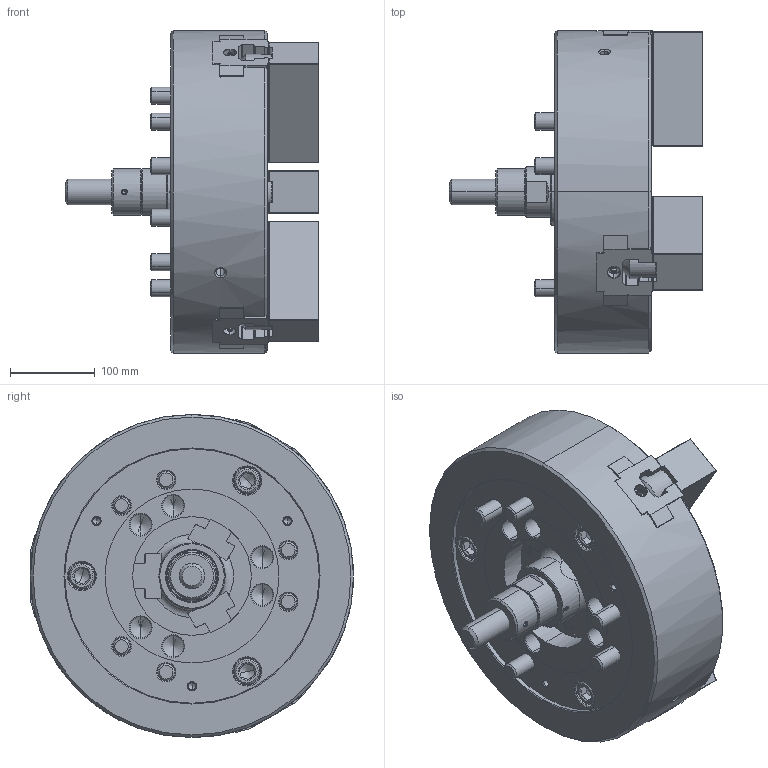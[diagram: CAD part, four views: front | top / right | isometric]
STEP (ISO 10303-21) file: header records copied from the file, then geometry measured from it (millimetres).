
FILE_DESCRIPTION (( 'STEP AP214' ), '1' );
FILE_NAME ('DT1_N-15_OUTSIDE_VIEW_HUL.STEP', '2026-03-19T02:18:55', ( '' ), ( '' ), 'SwSTEP 2.0', 'SolidWorks 2022', '' );
FILE_SCHEMA (( 'AUTOMOTIVE_DESIGN' ));
Length unit declared in the file: millimetre
Products named in the file (11): DT1_N-15_BASE^DT1_N-15; DT1_N-15_DN^DT1_N-15; DT1_N-15_M20x55^DT1_N-15; DT1_N-15_M20x115^DT1_N-15; DT1_N-15_M6x12^DT1_N-15; DT1_N-15_TNUT^DT1_N-15; Copy of 61P321208^DT1_N-15; DT1_N-15_COVER^DT1_N-15; DT1_N-15_SOFTJAW^DT1_N-15; DT1_N-15_OUTSIDE_VIEW_HUL; DT1_N-15_DRAWSCREW^DT1_N-15
Assembly tree (29 placements, depth 2):
  DT1_N-15_OUTSIDE_VIEW_HUL
    DT1_N-15_SOFTJAW^DT1_N-15  x3
    DT1_N-15_TNUT^DT1_N-15  x6
    DT1_N-15_COVER^DT1_N-15
    DT1_N-15_DRAWSCREW^DT1_N-15
    Copy of 61P321208^DT1_N-15
    DT1_N-15_DN^DT1_N-15
    DT1_N-15_BASE^DT1_N-15
    DT1_N-15_M6x12^DT1_N-15  x3
    DT1_N-15_M20x115^DT1_N-15  x6
    DT1_N-15_M20x55^DT1_N-15  x6
Bounding box: 299.56 x 381 x 381 mm (x, y, z)
Volume: 13282547.9 mm3; surface area: 963470.5 mm2
Topology: 29 solids, 30 shells, 5394 faces, 15361 edges, 10071 vertices
Faces by surface type: plane 3981, cylinder 825, cone 433, bspline 95, torus 54, sphere 6
Entity records: 131422 total; most frequent: CARTESIAN_POINT 33565, ORIENTED_EDGE 22022, DIRECTION 17845, EDGE_CURVE 11011, LINE 8427, VECTOR 8427, VERTEX_POINT 7237, AXIS2_PLACEMENT_3D 4709
